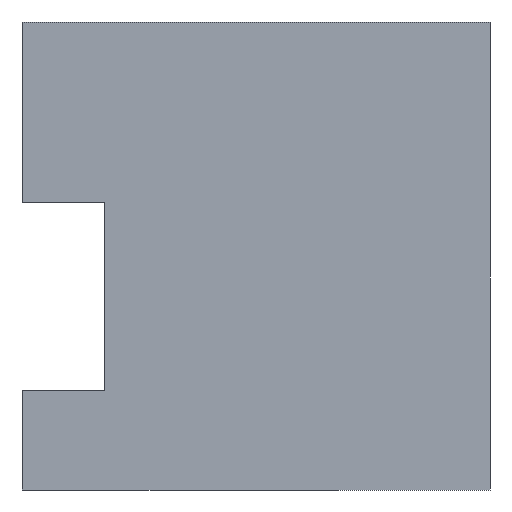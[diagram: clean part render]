
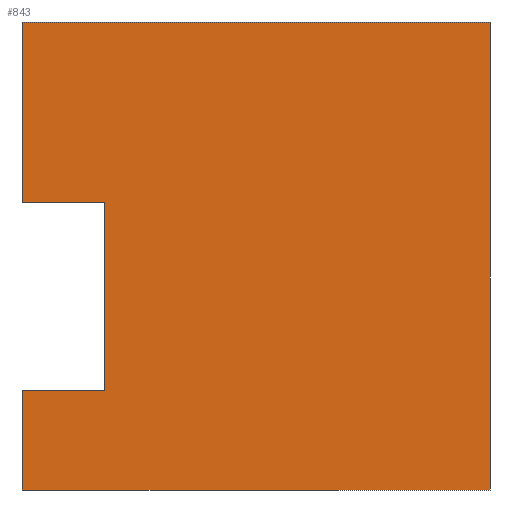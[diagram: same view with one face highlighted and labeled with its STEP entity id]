
A CAD part, left-side view. The second image highlights one B-rep face of the part: STEP entity #843.
In plain terms, the highlighted planar face has unit normal (-1, 0, 0).
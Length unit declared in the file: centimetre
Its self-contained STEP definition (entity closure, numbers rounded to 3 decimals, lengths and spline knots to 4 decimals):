
#28 = EDGE_CURVE ( 'NONE', #688, #710, #203, .T. ) ;
#34 = DIRECTION ( 'NONE',  ( 0., 0., -1. ) ) ;
#40 = CARTESIAN_POINT ( 'NONE',  ( 0., 0., 0. ) ) ;
#43 = ORIENTED_EDGE ( 'NONE', *, *, #28, .F. ) ;
#50 = VECTOR ( 'NONE', #193, 100. ) ;
#59 = VERTEX_POINT ( 'NONE', #528 ) ;
#62 = ORIENTED_EDGE ( 'NONE', *, *, #848, .F. ) ;
#82 = VECTOR ( 'NONE', #227, 100. ) ;
#106 = LINE ( 'NONE', #846, #275 ) ;
#118 = FACE_OUTER_BOUND ( 'NONE', #960, .T. ) ;
#128 = AXIS2_PLACEMENT_3D ( 'NONE', #447, #301, #34 ) ;
#135 = CARTESIAN_POINT ( 'NONE',  ( 0., 822.7472, 212.8533 ) ) ;
#138 = DIRECTION ( 'NONE',  ( 0., 0., -1. ) ) ;
#167 = CARTESIAN_POINT ( 'NONE',  ( 0., 822.7472, 212.8533 ) ) ;
#193 = DIRECTION ( 'NONE',  ( 0., 0., -1. ) ) ;
#202 = CARTESIAN_POINT ( 'NONE',  ( 0., 1000., 1000. ) ) ;
#203 = LINE ( 'NONE', #456, #503 ) ;
#210 = DIRECTION ( 'NONE',  ( 0., 0., -1. ) ) ;
#227 = DIRECTION ( 'NONE',  ( 0., 1., 0. ) ) ;
#269 = VERTEX_POINT ( 'NONE', #741 ) ;
#275 = VECTOR ( 'NONE', #762, 100. ) ;
#276 = VERTEX_POINT ( 'NONE', #167 ) ;
#301 = DIRECTION ( 'NONE',  ( 1., 0., 0. ) ) ;
#306 = LINE ( 'NONE', #634, #585 ) ;
#317 = CARTESIAN_POINT ( 'NONE',  ( 0., 822.7472, 614.6256 ) ) ;
#380 = EDGE_CURVE ( 'NONE', #269, #649, #1005, .T. ) ;
#389 = LINE ( 'NONE', #135, #82 ) ;
#398 = DIRECTION ( 'NONE',  ( 0., -1., 0. ) ) ;
#401 = VERTEX_POINT ( 'NONE', #40 ) ;
#418 = ORIENTED_EDGE ( 'NONE', *, *, #568, .T. ) ;
#445 = EDGE_CURVE ( 'NONE', #649, #401, #106, .T. ) ;
#446 = DIRECTION ( 'NONE',  ( 0., -1., 0. ) ) ;
#447 = CARTESIAN_POINT ( 'NONE',  ( 0., 1000., 1000. ) ) ;
#456 = CARTESIAN_POINT ( 'NONE',  ( 0., 1000., 1000. ) ) ;
#466 = CARTESIAN_POINT ( 'NONE',  ( 0., 1000., 614.6256 ) ) ;
#503 = VECTOR ( 'NONE', #446, 100. ) ;
#528 = CARTESIAN_POINT ( 'NONE',  ( 0., 822.7472, 614.6256 ) ) ;
#541 = EDGE_CURVE ( 'NONE', #855, #59, #712, .T. ) ;
#558 = CARTESIAN_POINT ( 'NONE',  ( 0., 822.7472, 212.8533 ) ) ;
#560 = EDGE_CURVE ( 'NONE', #59, #276, #883, .T. ) ;
#561 = ORIENTED_EDGE ( 'NONE', *, *, #380, .T. ) ;
#568 = EDGE_CURVE ( 'NONE', #276, #269, #389, .T. ) ;
#585 = VECTOR ( 'NONE', #1010, 100. ) ;
#634 = CARTESIAN_POINT ( 'NONE',  ( 0., 0., 1000. ) ) ;
#649 = VERTEX_POINT ( 'NONE', #760 ) ;
#660 = VECTOR ( 'NONE', #210, 100. ) ;
#688 = VERTEX_POINT ( 'NONE', #998 ) ;
#710 = VERTEX_POINT ( 'NONE', #926 ) ;
#712 = LINE ( 'NONE', #317, #836 ) ;
#741 = CARTESIAN_POINT ( 'NONE',  ( 0., 1000., 212.8533 ) ) ;
#760 = CARTESIAN_POINT ( 'NONE',  ( 0., 1000., 0. ) ) ;
#762 = DIRECTION ( 'NONE',  ( 0., -1., 0. ) ) ;
#824 = ORIENTED_EDGE ( 'NONE', *, *, #1056, .T. ) ;
#836 = VECTOR ( 'NONE', #398, 100. ) ;
#843 = ADVANCED_FACE ( 'NONE', ( #118 ), #1016, .F. ) ;
#846 = CARTESIAN_POINT ( 'NONE',  ( 0., 1000., 0. ) ) ;
#848 = EDGE_CURVE ( 'NONE', #710, #401, #306, .T. ) ;
#855 = VERTEX_POINT ( 'NONE', #466 ) ;
#877 = ORIENTED_EDGE ( 'NONE', *, *, #541, .T. ) ;
#883 = LINE ( 'NONE', #558, #660 ) ;
#894 = CARTESIAN_POINT ( 'NONE',  ( 0., 1000., 1000. ) ) ;
#905 = ORIENTED_EDGE ( 'NONE', *, *, #560, .T. ) ;
#926 = CARTESIAN_POINT ( 'NONE',  ( 0., 0., 1000. ) ) ;
#938 = VECTOR ( 'NONE', #138, 100. ) ;
#960 = EDGE_LOOP ( 'NONE', ( #905, #418, #561, #1044, #62, #43, #824, #877 ) ) ;
#998 = CARTESIAN_POINT ( 'NONE',  ( 0., 1000., 1000. ) ) ;
#1005 = LINE ( 'NONE', #202, #50 ) ;
#1010 = DIRECTION ( 'NONE',  ( 0., 0., -1. ) ) ;
#1016 = PLANE ( 'NONE',  #128 ) ;
#1037 = LINE ( 'NONE', #894, #938 ) ;
#1044 = ORIENTED_EDGE ( 'NONE', *, *, #445, .T. ) ;
#1056 = EDGE_CURVE ( 'NONE', #688, #855, #1037, .T. ) ;
